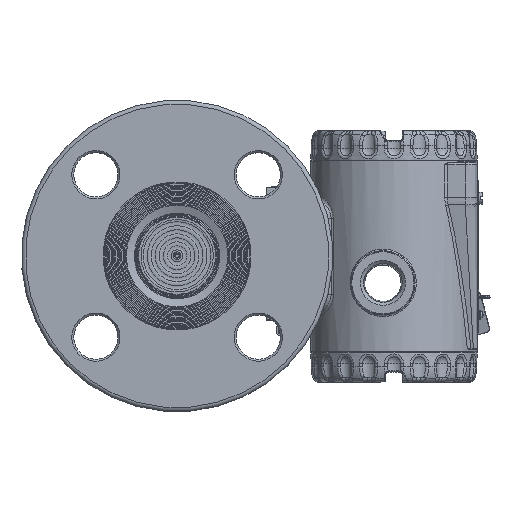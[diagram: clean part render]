
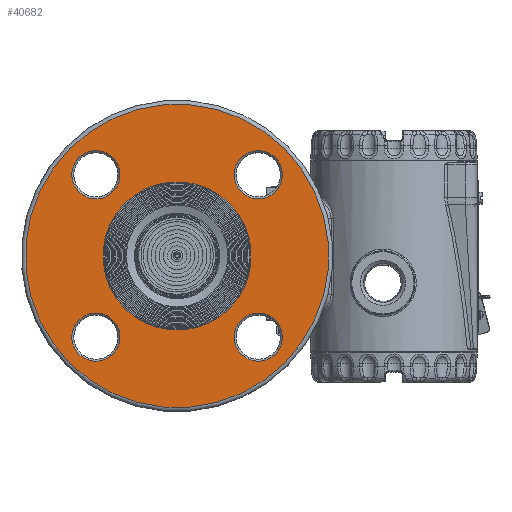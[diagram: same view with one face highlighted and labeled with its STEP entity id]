
A CAD part, top view. The second image highlights one B-rep face of the part: STEP entity #40682.
In plain terms, the highlighted planar face has unit normal (0, 0, 1).
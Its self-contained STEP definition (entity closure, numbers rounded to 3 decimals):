
#685=FACE_BOUND('',#6747,.T.);
#686=FACE_BOUND('',#6748,.T.);
#687=FACE_BOUND('',#6749,.T.);
#688=FACE_BOUND('',#6750,.T.);
#689=FACE_BOUND('',#6751,.T.);
#2639=PLANE('',#45264);
#4037=FACE_OUTER_BOUND('',#6746,.T.);
#6746=EDGE_LOOP('',(#31134));
#6747=EDGE_LOOP('',(#31135));
#6748=EDGE_LOOP('',(#31136));
#6749=EDGE_LOOP('',(#31137));
#6750=EDGE_LOOP('',(#31138));
#6751=EDGE_LOOP('',(#31139,#31140));
#13433=CIRCLE('',#45259,36.9);
#13437=CIRCLE('',#45263,36.9);
#13438=CIRCLE('',#45265,75.5);
#13439=CIRCLE('',#45266,12.);
#13440=CIRCLE('',#45267,12.);
#13441=CIRCLE('',#45268,12.);
#13442=CIRCLE('',#45269,12.);
#17847=VERTEX_POINT('',#72047);
#17848=VERTEX_POINT('',#72048);
#17851=VERTEX_POINT('',#72057);
#17852=VERTEX_POINT('',#72059);
#17853=VERTEX_POINT('',#72061);
#17854=VERTEX_POINT('',#72063);
#17855=VERTEX_POINT('',#72065);
#22555=EDGE_CURVE('',#17847,#17848,#13433,.T.);
#22559=EDGE_CURVE('',#17848,#17847,#13437,.T.);
#22560=EDGE_CURVE('',#17851,#17851,#13438,.T.);
#22561=EDGE_CURVE('',#17852,#17852,#13439,.T.);
#22562=EDGE_CURVE('',#17853,#17853,#13440,.T.);
#22563=EDGE_CURVE('',#17854,#17854,#13441,.T.);
#22564=EDGE_CURVE('',#17855,#17855,#13442,.T.);
#31134=ORIENTED_EDGE('',*,*,#22560,.F.);
#31135=ORIENTED_EDGE('',*,*,#22561,.F.);
#31136=ORIENTED_EDGE('',*,*,#22562,.F.);
#31137=ORIENTED_EDGE('',*,*,#22563,.F.);
#31138=ORIENTED_EDGE('',*,*,#22564,.F.);
#31139=ORIENTED_EDGE('',*,*,#22555,.F.);
#31140=ORIENTED_EDGE('',*,*,#22559,.F.);
#40682=ADVANCED_FACE('',(#4037,#685,#686,#687,#688,#689),#2639,.T.);
#45259=AXIS2_PLACEMENT_3D('',#72049,#53370,#53371);
#45263=AXIS2_PLACEMENT_3D('',#72055,#53378,#53379);
#45264=AXIS2_PLACEMENT_3D('',#72056,#53380,#53381);
#45265=AXIS2_PLACEMENT_3D('',#72058,#53382,#53383);
#45266=AXIS2_PLACEMENT_3D('',#72060,#53384,#53385);
#45267=AXIS2_PLACEMENT_3D('',#72062,#53386,#53387);
#45268=AXIS2_PLACEMENT_3D('',#72064,#53388,#53389);
#45269=AXIS2_PLACEMENT_3D('',#72066,#53390,#53391);
#53370=DIRECTION('center_axis',(0.,0.,1.));
#53371=DIRECTION('ref_axis',(-1.,0.,0.));
#53378=DIRECTION('center_axis',(0.,0.,1.));
#53379=DIRECTION('ref_axis',(-1.,0.,0.));
#53380=DIRECTION('center_axis',(0.,0.,1.));
#53381=DIRECTION('ref_axis',(1.,0.,0.));
#53382=DIRECTION('center_axis',(0.,0.,-1.));
#53383=DIRECTION('ref_axis',(-1.,0.,0.));
#53384=DIRECTION('center_axis',(0.,0.,1.));
#53385=DIRECTION('ref_axis',(-1.,0.,0.));
#53386=DIRECTION('center_axis',(0.,0.,1.));
#53387=DIRECTION('ref_axis',(0.,1.,0.));
#53388=DIRECTION('center_axis',(0.,0.,1.));
#53389=DIRECTION('ref_axis',(1.,0.,0.));
#53390=DIRECTION('center_axis',(0.,0.,1.));
#53391=DIRECTION('ref_axis',(0.,-1.,0.));
#72047=CARTESIAN_POINT('',(36.9,0.,22.3));
#72048=CARTESIAN_POINT('',(-36.9,0.,22.3));
#72049=CARTESIAN_POINT('Origin',(0.,0.,22.3));
#72055=CARTESIAN_POINT('Origin',(0.,0.,22.3));
#72056=CARTESIAN_POINT('Origin',(0.,0.,
22.3));
#72057=CARTESIAN_POINT('',(75.5,0.,22.3));
#72058=CARTESIAN_POINT('Origin',(0.,0.,22.3));
#72059=CARTESIAN_POINT('',(12.,57.15,22.3));
#72060=CARTESIAN_POINT('Origin',(0.,57.15,22.3));
#72061=CARTESIAN_POINT('',(57.15,-12.,22.3));
#72062=CARTESIAN_POINT('Origin',(57.15,0.,22.3));
#72063=CARTESIAN_POINT('',(-12.,-57.15,22.3));
#72064=CARTESIAN_POINT('Origin',(0.,-57.15,22.3));
#72065=CARTESIAN_POINT('',(-57.15,12.,22.3));
#72066=CARTESIAN_POINT('Origin',(-57.15,0.,22.3));
